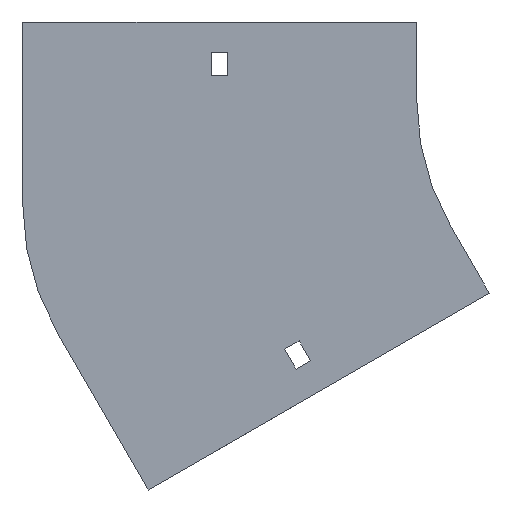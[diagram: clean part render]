
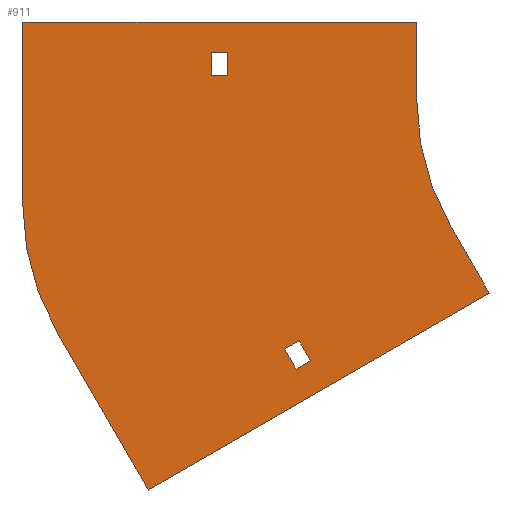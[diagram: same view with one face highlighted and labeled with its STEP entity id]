
A CAD part, front view. The second image highlights one B-rep face of the part: STEP entity #911.
In plain terms, the highlighted planar face has unit normal (0, -1, 0).
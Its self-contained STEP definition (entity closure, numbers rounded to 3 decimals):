
#11 = CARTESIAN_POINT ( 'NONE',  ( -204.97, 0., -152.981 ) ) ;
#24 = ORIENTED_EDGE ( 'NONE', *, *, #1303, .F. ) ;
#39 = CARTESIAN_POINT ( 'NONE',  ( -147.101, 0., -105.713 ) ) ;
#56 = FACE_BOUND ( 'NONE', #202, .T. ) ;
#65 = PLANE ( 'NONE',  #95 ) ;
#82 = CARTESIAN_POINT ( 'NONE',  ( -180.25, 0., 9. ) ) ;
#95 = AXIS2_PLACEMENT_3D ( 'NONE', #1714, #1873, #655 ) ;
#115 = DIRECTION ( 'NONE',  ( -0.5, 0., 0.866 ) ) ;
#118 = VECTOR ( 'NONE', #881, 1000. ) ;
#125 = VECTOR ( 'NONE', #1095, 1000. ) ;
#159 = VERTEX_POINT ( 'NONE', #827 ) ;
#161 = ORIENTED_EDGE ( 'NONE', *, *, #604, .F. ) ;
#167 = VERTEX_POINT ( 'NONE', #1889 ) ;
#200 = ORIENTED_EDGE ( 'NONE', *, *, #356, .T. ) ;
#202 = EDGE_LOOP ( 'NONE', ( #1770, #161, #1436, #600 ) ) ;
#206 = CARTESIAN_POINT ( 'NONE',  ( -71.603, 0., -75.981 ) ) ;
#241 = DIRECTION ( 'NONE',  ( 0., 0., 1. ) ) ;
#243 = CARTESIAN_POINT ( 'NONE',  ( 0., 0., 0. ) ) ;
#254 = DIRECTION ( 'NONE',  ( 0.5, 0., -0.866 ) ) ;
#276 = CARTESIAN_POINT ( 'NONE',  ( -254., 0., -41.264 ) ) ;
#279 = EDGE_CURVE ( 'NONE', #435, #1489, #1340, .T. ) ;
#283 = CARTESIAN_POINT ( 'NONE',  ( -204.97, 0., -152.981 ) ) ;
#330 = EDGE_CURVE ( 'NONE', #491, #969, #592, .T. ) ;
#356 = EDGE_CURVE ( 'NONE', #772, #1347, #605, .T. ) ;
#413 = CARTESIAN_POINT ( 'NONE',  ( -100., 0., 30. ) ) ;
#435 = VERTEX_POINT ( 'NONE', #793 ) ;
#446 = VERTEX_POINT ( 'NONE', #628 ) ;
#449 = VERTEX_POINT ( 'NONE', #206 ) ;
#452 = EDGE_LOOP ( 'NONE', ( #1192, #1379, #789, #200 ) ) ;
#454 = DIRECTION ( 'NONE',  ( -0.866, 0., -0.5 ) ) ;
#459 = EDGE_CURVE ( 'NONE', #446, #1739, #637, .T. ) ;
#471 = VECTOR ( 'NONE', #115, 1000. ) ;
#491 = VERTEX_POINT ( 'NONE', #915 ) ;
#556 = CARTESIAN_POINT ( 'NONE',  ( -86.603, 0., -50. ) ) ;
#559 = VECTOR ( 'NONE', #1041, 1000. ) ;
#569 = LINE ( 'NONE', #283, #118 ) ;
#577 = LINE ( 'NONE', #1174, #1657 ) ;
#592 = LINE ( 'NONE', #1672, #559 ) ;
#600 = ORIENTED_EDGE ( 'NONE', *, *, #666, .F. ) ;
#603 = CARTESIAN_POINT ( 'NONE',  ( -86.603, 0., -50. ) ) ;
#604 = EDGE_CURVE ( 'NONE', #167, #446, #1432, .T. ) ;
#605 = LINE ( 'NONE', #1802, #1026 ) ;
#627 = VERTEX_POINT ( 'NONE', #1107 ) ;
#628 = CARTESIAN_POINT ( 'NONE',  ( -147.101, 0., -105.713 ) ) ;
#630 = EDGE_CURVE ( 'NONE', #627, #766, #718, .T. ) ;
#637 = LINE ( 'NONE', #39, #125 ) ;
#655 = DIRECTION ( 'NONE',  ( 0., 0., -1. ) ) ;
#666 = EDGE_CURVE ( 'NONE', #1739, #1868, #1296, .T. ) ;
#678 = EDGE_CURVE ( 'NONE', #1489, #627, #1353, .T. ) ;
#709 = CARTESIAN_POINT ( 'NONE',  ( -173.75, 0., 18. ) ) ;
#718 = CIRCLE ( 'NONE', #1029, 100. ) ;
#749 = CARTESIAN_POINT ( 'NONE',  ( -254., 0., 30. ) ) ;
#751 = EDGE_CURVE ( 'NONE', #766, #449, #909, .T. ) ;
#762 = DIRECTION ( 'NONE',  ( 1., 0., 0. ) ) ;
#766 = VERTEX_POINT ( 'NONE', #603 ) ;
#772 = VERTEX_POINT ( 'NONE', #1363 ) ;
#773 = VECTOR ( 'NONE', #1777, 1000. ) ;
#789 = ORIENTED_EDGE ( 'NONE', *, *, #1454, .T. ) ;
#793 = CARTESIAN_POINT ( 'NONE',  ( -254., 0., 30. ) ) ;
#804 = CARTESIAN_POINT ( 'NONE',  ( -254., 0., -41.264 ) ) ;
#822 = DIRECTION ( 'NONE',  ( 0., 0., 1. ) ) ;
#827 = CARTESIAN_POINT ( 'NONE',  ( -240.603, 0., -91.264 ) ) ;
#829 = CARTESIAN_POINT ( 'NONE',  ( -180.25, 0., 9. ) ) ;
#839 = LINE ( 'NONE', #829, #1629 ) ;
#874 = LINE ( 'NONE', #1020, #1514 ) ;
#875 = DIRECTION ( 'NONE',  ( 0., 1., 0. ) ) ;
#881 = DIRECTION ( 'NONE',  ( -0.5, 0., 0.866 ) ) ;
#909 = LINE ( 'NONE', #556, #1571 ) ;
#911 = ADVANCED_FACE ( 'NONE', ( #1273, #1403, #56 ), #65, .T. ) ;
#915 = CARTESIAN_POINT ( 'NONE',  ( -180.25, 0., 18. ) ) ;
#942 = VECTOR ( 'NONE', #1757, 1000. ) ;
#959 = DIRECTION ( 'NONE',  ( 0., 0., -1. ) ) ;
#969 = VERTEX_POINT ( 'NONE', #709 ) ;
#981 = LINE ( 'NONE', #1141, #1864 ) ;
#1011 = CARTESIAN_POINT ( 'NONE',  ( -100., 0., 30. ) ) ;
#1020 = CARTESIAN_POINT ( 'NONE',  ( -71.603, 0., -75.981 ) ) ;
#1026 = VECTOR ( 'NONE', #1774, 1000. ) ;
#1029 = AXIS2_PLACEMENT_3D ( 'NONE', #243, #1709, #959 ) ;
#1038 = ORIENTED_EDGE ( 'NONE', *, *, #1335, .F. ) ;
#1041 = DIRECTION ( 'NONE',  ( 1., 0., 0. ) ) ;
#1054 = AXIS2_PLACEMENT_3D ( 'NONE', #1313, #875, #241 ) ;
#1095 = DIRECTION ( 'NONE',  ( 0.866, 0., 0.5 ) ) ;
#1100 = EDGE_CURVE ( 'NONE', #449, #1713, #874, .T. ) ;
#1102 = ORIENTED_EDGE ( 'NONE', *, *, #678, .F. ) ;
#1107 = CARTESIAN_POINT ( 'NONE',  ( -100., 0., 0. ) ) ;
#1141 = CARTESIAN_POINT ( 'NONE',  ( -173.75, 0., 9. ) ) ;
#1160 = VECTOR ( 'NONE', #254, 1000. ) ;
#1174 = CARTESIAN_POINT ( 'NONE',  ( -151.601, 0., -97.919 ) ) ;
#1192 = ORIENTED_EDGE ( 'NONE', *, *, #1916, .T. ) ;
#1238 = ORIENTED_EDGE ( 'NONE', *, *, #1678, .F. ) ;
#1273 = FACE_BOUND ( 'NONE', #452, .T. ) ;
#1291 = DIRECTION ( 'NONE',  ( 0., 0., -1. ) ) ;
#1292 = EDGE_CURVE ( 'NONE', #1868, #167, #577, .T. ) ;
#1296 = LINE ( 'NONE', #1900, #471 ) ;
#1303 = EDGE_CURVE ( 'NONE', #1713, #159, #569, .T. ) ;
#1313 = CARTESIAN_POINT ( 'NONE',  ( -154., 0., -41.264 ) ) ;
#1335 = EDGE_CURVE ( 'NONE', #159, #1741, #1845, .T. ) ;
#1340 = LINE ( 'NONE', #749, #1346 ) ;
#1346 = VECTOR ( 'NONE', #762, 1000. ) ;
#1347 = VERTEX_POINT ( 'NONE', #82 ) ;
#1353 = LINE ( 'NONE', #413, #942 ) ;
#1363 = CARTESIAN_POINT ( 'NONE',  ( -173.75, 0., 9. ) ) ;
#1379 = ORIENTED_EDGE ( 'NONE', *, *, #330, .T. ) ;
#1396 = CARTESIAN_POINT ( 'NONE',  ( -141.472, 0., -102.463 ) ) ;
#1403 = FACE_OUTER_BOUND ( 'NONE', #1446, .T. ) ;
#1432 = LINE ( 'NONE', #1563, #1160 ) ;
#1436 = ORIENTED_EDGE ( 'NONE', *, *, #1292, .F. ) ;
#1446 = EDGE_LOOP ( 'NONE', ( #1530, #1238, #1038, #24, #1656, #1862, #1861, #1102 ) ) ;
#1454 = EDGE_CURVE ( 'NONE', #969, #772, #981, .T. ) ;
#1489 = VERTEX_POINT ( 'NONE', #1011 ) ;
#1504 = LINE ( 'NONE', #276, #773 ) ;
#1514 = VECTOR ( 'NONE', #454, 1000. ) ;
#1515 = DIRECTION ( 'NONE',  ( 0.5, 0., -0.866 ) ) ;
#1530 = ORIENTED_EDGE ( 'NONE', *, *, #279, .F. ) ;
#1563 = CARTESIAN_POINT ( 'NONE',  ( -151.601, 0., -97.919 ) ) ;
#1571 = VECTOR ( 'NONE', #1515, 1000. ) ;
#1629 = VECTOR ( 'NONE', #822, 1000. ) ;
#1656 = ORIENTED_EDGE ( 'NONE', *, *, #1100, .F. ) ;
#1657 = VECTOR ( 'NONE', #1776, 1000. ) ;
#1672 = CARTESIAN_POINT ( 'NONE',  ( -180.25, 0., 18. ) ) ;
#1678 = EDGE_CURVE ( 'NONE', #1741, #435, #1504, .T. ) ;
#1709 = DIRECTION ( 'NONE',  ( 0., -1., 0. ) ) ;
#1713 = VERTEX_POINT ( 'NONE', #11 ) ;
#1714 = CARTESIAN_POINT ( 'NONE',  ( 0., 0., 0. ) ) ;
#1728 = CARTESIAN_POINT ( 'NONE',  ( -145.972, 0., -94.669 ) ) ;
#1739 = VERTEX_POINT ( 'NONE', #1396 ) ;
#1741 = VERTEX_POINT ( 'NONE', #804 ) ;
#1757 = DIRECTION ( 'NONE',  ( 0., 0., -1. ) ) ;
#1770 = ORIENTED_EDGE ( 'NONE', *, *, #459, .F. ) ;
#1774 = DIRECTION ( 'NONE',  ( -1., 0., 0. ) ) ;
#1776 = DIRECTION ( 'NONE',  ( -0.866, 0., -0.5 ) ) ;
#1777 = DIRECTION ( 'NONE',  ( 0., 0., 1. ) ) ;
#1802 = CARTESIAN_POINT ( 'NONE',  ( -180.25, 0., 9. ) ) ;
#1845 = CIRCLE ( 'NONE', #1054, 100. ) ;
#1861 = ORIENTED_EDGE ( 'NONE', *, *, #630, .F. ) ;
#1862 = ORIENTED_EDGE ( 'NONE', *, *, #751, .F. ) ;
#1864 = VECTOR ( 'NONE', #1291, 1000. ) ;
#1868 = VERTEX_POINT ( 'NONE', #1728 ) ;
#1873 = DIRECTION ( 'NONE',  ( 0., -1., 0. ) ) ;
#1889 = CARTESIAN_POINT ( 'NONE',  ( -151.601, 0., -97.919 ) ) ;
#1900 = CARTESIAN_POINT ( 'NONE',  ( -145.972, 0., -94.669 ) ) ;
#1916 = EDGE_CURVE ( 'NONE', #1347, #491, #839, .T. ) ;
